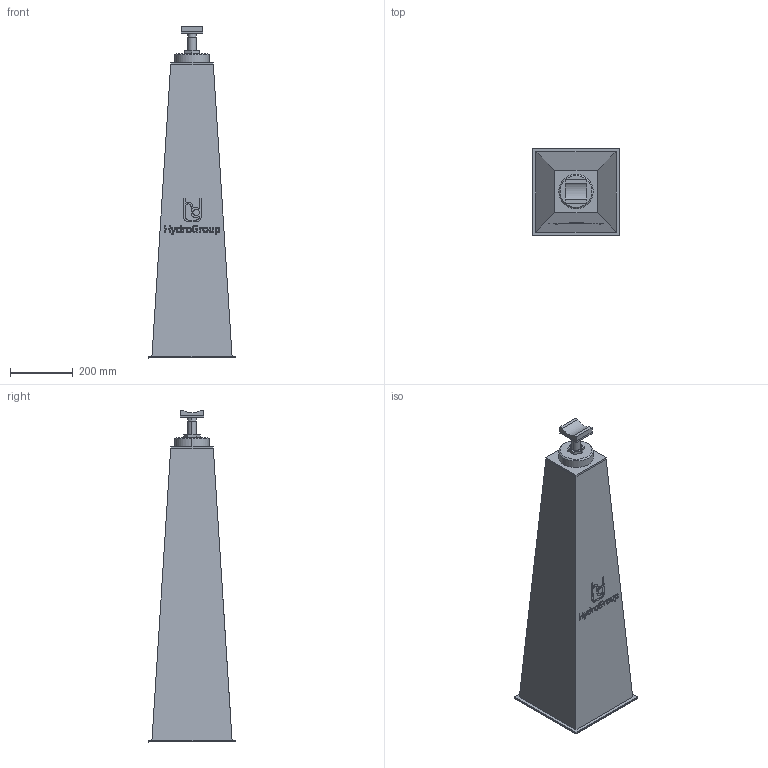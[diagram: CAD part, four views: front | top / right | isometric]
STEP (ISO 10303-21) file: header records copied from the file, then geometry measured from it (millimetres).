
FILE_DESCRIPTION(('STEP AP214'),'1');
FILE_NAME('RSRFE-III_DN80.stp','2018-06-28T11:25:44',(' '),(' '),'Spatial InterOp 3D',' ',' ');
FILE_SCHEMA(('automotive_design'));
Length unit declared in the file: millimetre
Products named in the file (6): 1; 2; 3; 4; 5; 6
Bounding box: 276.01 x 276.01 x 1059 mm (x, y, z)
Volume: 37839617.5 mm3; surface area: 1081887.2 mm2
Topology: 6 solids, 6 shells, 222 faces, 547 edges, 356 vertices
Faces by surface type: plane 144, cylinder 30, extrusion 24, cone 20, torus 4
Entity records: 8932 total; most frequent: CARTESIAN_POINT 1805, ORIENTED_EDGE 1094, DIRECTION 1007, EDGE_CURVE 547, VECTOR 423, LINE 399, VERTEX_POINT 356, AXIS2_PLACEMENT_3D 292
